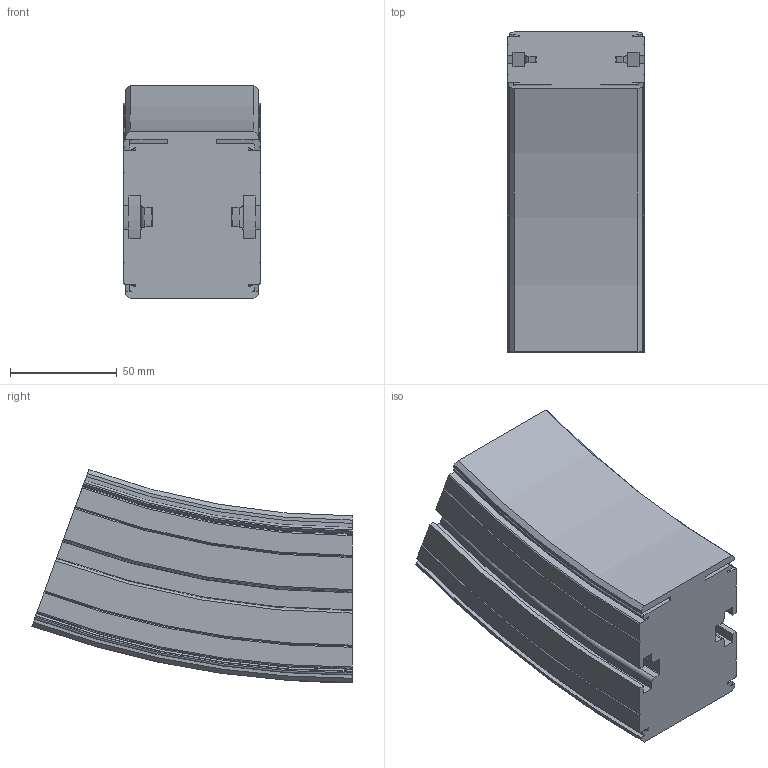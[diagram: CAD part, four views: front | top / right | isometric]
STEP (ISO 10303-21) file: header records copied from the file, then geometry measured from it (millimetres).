
FILE_DESCRIPTION(/* description */ ('VERTIKALKURVA S620 R400'),/* implementation_level */ '2;1');
FILE_NAME(/* name */ '\\carryline.intra\privat\users\mathias\Desktop\Tillfälliga filer\620-5645+620-2000-NER-01.stp',/* time_stamp */ '2018-12-05T15:51:29+01:00',/* author */ ('MD'),/* organization */ ('CARRYLINE'),/* preprocessor_version */ 'ST-DEVELOPER v17',/* originating_system */ 'Autodesk Inventor 2018',/* authorisation */ '');
FILE_SCHEMA (('AUTOMOTIVE_DESIGN { 1 0 10303 214 3 1 1 }'));
Length unit declared in the file: millimetre
Products named in the file (1): 620-5645+620-2000-NER-01
Bounding box: 64 x 149.8 x 99.71 mm (x, y, z)
Volume: 622617.9 mm3; surface area: 75114.9 mm2
Topology: 1 solids, 1 shells, 149 faces, 426 edges, 284 vertices
Faces by surface type: plane 54, cylinder 37, torus 28, cone 16, bspline 14
Entity records: 9542 total; most frequent: CARTESIAN_POINT 5522, ORIENTED_EDGE 852, DIRECTION 836, EDGE_CURVE 426, AXIS2_PLACEMENT_3D 315, VERTEX_POINT 284, LINE 206, VECTOR 206
